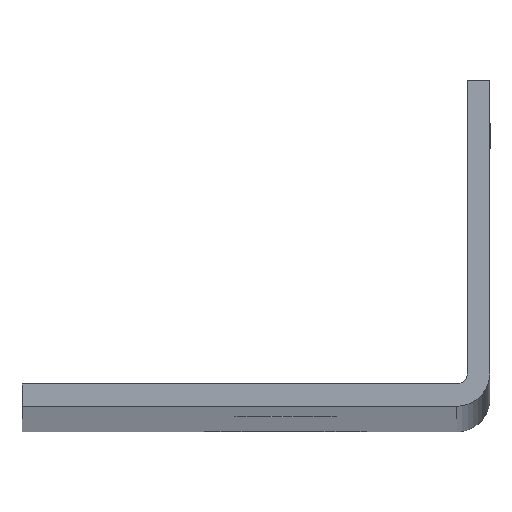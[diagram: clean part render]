
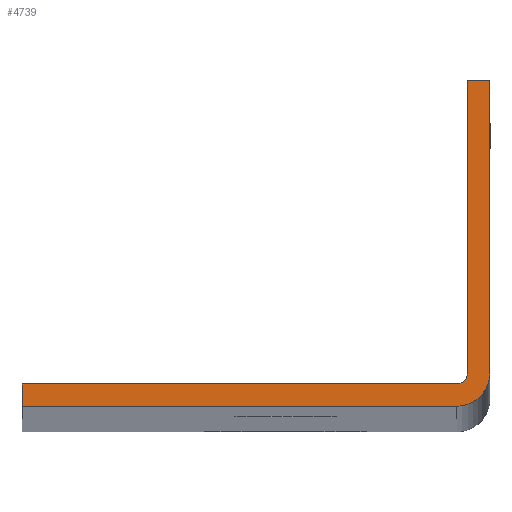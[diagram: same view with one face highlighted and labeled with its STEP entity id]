
A CAD part, top view. The second image highlights one B-rep face of the part: STEP entity #4739.
In plain terms, the highlighted planar face has unit normal (0, 0, 1).
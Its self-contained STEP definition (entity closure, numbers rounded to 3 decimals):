
#285=LINE('',#7304,#525);
#334=LINE('',#7557,#574);
#335=LINE('',#7561,#575);
#336=LINE('',#7563,#576);
#337=LINE('',#7567,#577);
#338=LINE('',#7569,#578);
#525=VECTOR('',#5797,1000.);
#574=VECTOR('',#5910,1000.);
#575=VECTOR('',#5913,1000.);
#576=VECTOR('',#5914,1000.);
#577=VECTOR('',#5917,1000.);
#578=VECTOR('',#5918,1000.);
#1013=ORIENTED_EDGE('',*,*,#2244,.F.);
#1014=ORIENTED_EDGE('',*,*,#2245,.F.);
#1015=ORIENTED_EDGE('',*,*,#2149,.F.);
#1016=ORIENTED_EDGE('',*,*,#2246,.T.);
#1017=ORIENTED_EDGE('',*,*,#2247,.T.);
#1018=ORIENTED_EDGE('',*,*,#2248,.T.);
#1019=ORIENTED_EDGE('',*,*,#2249,.T.);
#1020=ORIENTED_EDGE('',*,*,#2250,.T.);
#2149=EDGE_CURVE('',#2769,#2770,#285,.T.);
#2244=EDGE_CURVE('',#2855,#2856,#334,.T.);
#2245=EDGE_CURVE('',#2770,#2855,#3239,.T.);
#2246=EDGE_CURVE('',#2769,#2857,#335,.T.);
#2247=EDGE_CURVE('',#2857,#2858,#336,.T.);
#2248=EDGE_CURVE('',#2858,#2859,#3240,.F.);
#2249=EDGE_CURVE('',#2859,#2860,#337,.T.);
#2250=EDGE_CURVE('',#2860,#2856,#338,.T.);
#2769=VERTEX_POINT('',#7305);
#2770=VERTEX_POINT('',#7306);
#2855=VERTEX_POINT('',#7558);
#2856=VERTEX_POINT('',#7559);
#2857=VERTEX_POINT('',#7562);
#2858=VERTEX_POINT('',#7564);
#2859=VERTEX_POINT('',#7566);
#2860=VERTEX_POINT('',#7568);
#3239=CIRCLE('',#5156,3.632);
#3240=CIRCLE('',#5157,1.219);
#3518=EDGE_LOOP('',(#1013,#1014,#1015,#1016,#1017,#1018,#1019,#1020));
#4138=FACE_BOUND('',#3518,.T.);
#4627=PLANE('',#5155);
#4739=ADVANCED_FACE('',(#4138),#4627,.T.);
#5155=AXIS2_PLACEMENT_3D('',#7556,#5908,#5909);
#5156=AXIS2_PLACEMENT_3D('',#7560,#5911,#5912);
#5157=AXIS2_PLACEMENT_3D('',#7565,#5915,#5916);
#5797=DIRECTION('',(0.,-1.,0.));
#5908=DIRECTION('',(0.,0.,1.));
#5909=DIRECTION('',(1.,0.,0.));
#5910=DIRECTION('',(-1.,0.,0.));
#5911=DIRECTION('',(0.,0.,-1.));
#5912=DIRECTION('',(0.,1.,0.));
#5913=DIRECTION('',(-1.,0.,0.));
#5914=DIRECTION('',(0.,-1.,0.));
#5915=DIRECTION('',(0.,0.,1.));
#5916=DIRECTION('',(1.,0.,0.));
#5917=DIRECTION('',(-1.,0.,0.));
#5918=DIRECTION('',(0.,-1.,0.));
#7304=CARTESIAN_POINT('',(25.4,2.171,800.481));
#7305=CARTESIAN_POINT('',(25.4,35.408,800.481));
#7306=CARTESIAN_POINT('',(25.4,3.632,800.481));
#7556=CARTESIAN_POINT('',(25.4,2.413,800.481));
#7557=CARTESIAN_POINT('',(25.4,0.,800.481));
#7558=CARTESIAN_POINT('',(21.768,0.,800.481));
#7559=CARTESIAN_POINT('',(-25.4,0.,800.481));
#7560=CARTESIAN_POINT('',(21.768,3.632,800.481));
#7561=CARTESIAN_POINT('',(25.4,35.408,800.481));
#7562=CARTESIAN_POINT('',(22.987,35.408,800.481));
#7563=CARTESIAN_POINT('',(22.987,2.171,800.481));
#7564=CARTESIAN_POINT('',(22.987,3.632,800.481));
#7565=CARTESIAN_POINT('',(21.768,3.632,800.481));
#7566=CARTESIAN_POINT('',(21.768,2.413,800.481));
#7567=CARTESIAN_POINT('',(25.4,2.413,800.481));
#7568=CARTESIAN_POINT('',(-25.4,2.413,800.481));
#7569=CARTESIAN_POINT('',(-25.4,2.413,800.481));
